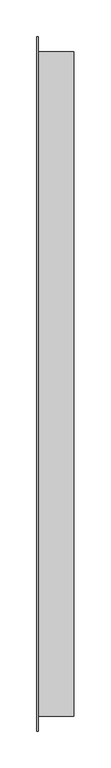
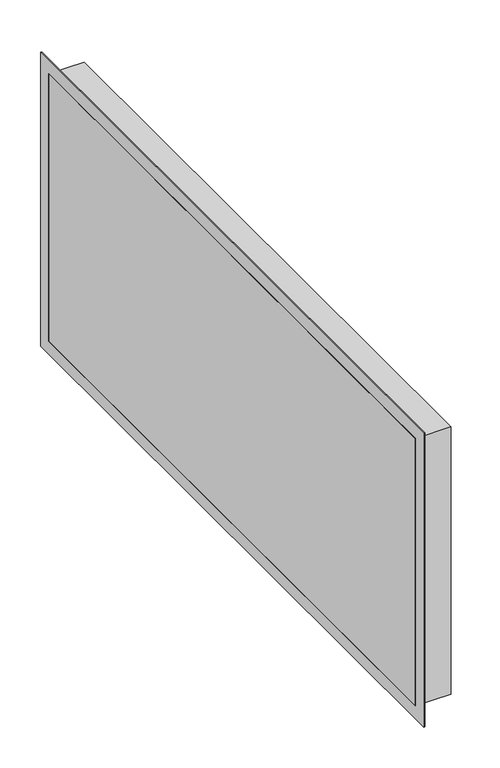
"""IFC4 building model written with IfcOpenShell, lengths in millimetres: duct fitting geometry, ADSK_ЗаглушкаВоздуховода_Прямоугольный : Стандартное."""

import ifcopenshell
import ifcopenshell.guid

model = None  # the IFC model being written
_history = None  # IfcOwnerHistory: only IFC2X3 demands one
_inside = {}  # id of a spatial element -> (the spatial element, [elements in it])
_under = {}  # id of a project, library or spatial element -> (it, [spatial elements below it])
_declared = {}  # id of a project -> (the project, [libraries it declares])
_typed = {}  # id of a type object -> (the type object, [elements of that type])
_made_of = {}  # id of a material, layer set ... -> (it, [elements and type objects made of it])


def new_model(schema):
    """Start an empty IFC model of exactly this schema.

    Asked for "IFC4X3", IfcOpenShell would pick the latest addendum, in which some entities
    have other attributes; the version numbers below select the first issue.
    IFC2X3 requires an IfcOwnerHistory on every rooted entity: one is made here for all.
    """
    global model, _history
    if schema == "IFC4X3":
        model = ifcopenshell.file(schema_version=(4, 3, 0, 0))
    else:
        model = ifcopenshell.file(schema=schema)
    _inside.clear()
    _under.clear()
    _declared.clear()
    _typed.clear()
    _made_of.clear()
    _history = None
    if model.schema == "IFC2X3":
        org = make("IfcOrganization", Name="unknown")
        user = make(
            "IfcPersonAndOrganization",
            ThePerson=make("IfcPerson", FamilyName="unknown"),
            TheOrganization=org,
        )
        app = make(
            "IfcApplication",
            ApplicationDeveloper=org,
            Version="unknown",
            ApplicationFullName="unknown",
            ApplicationIdentifier="unknown",
        )
        _history = make(
            "IfcOwnerHistory",
            OwningUser=user,
            OwningApplication=app,
            ChangeAction="ADDED",
            CreationDate=0,
        )
    return model


def make(cls, **values):
    """One entity of the class cls with the attributes given. An attribute that is None is left unset."""
    return model.create_entity(
        cls, **{name: value for name, value in values.items() if value is not None}
    )


def rooted(cls, **values):
    """An entity with a GlobalId (a new one), such as an element, a storey or a relation."""
    return make(cls, GlobalId=ifcopenshell.guid.new(), OwnerHistory=_history, **values)


def si_unit(unit_type, name, prefix=None):
    """IfcSIUnit, for example si_unit("LENGTHUNIT", "METRE", prefix="MILLI")."""
    return make("IfcSIUnit", UnitType=unit_type, Prefix=prefix, Name=name)


def assignment(units):
    """IfcUnitAssignment: the units of a project."""
    return None if units is None else make("IfcUnitAssignment", Units=units)


def point(xyz):
    """IfcCartesianPoint."""
    return None if xyz is None else make("IfcCartesianPoint", Coordinates=xyz)


def direction(xyz):
    """IfcDirection."""
    return None if xyz is None else make("IfcDirection", DirectionRatios=xyz)


def frame(location, z_axis=None, x_axis=None):
    """IfcAxis2Placement3D, a coordinate frame: its origin and axes. An axis left out is left unset."""
    return make(
        "IfcAxis2Placement3D",
        Location=point(location),
        Axis=direction(z_axis),
        RefDirection=direction(x_axis),
    )


def origin():
    """The frame at (0, 0, 0) with its axes left unset."""
    return frame((0.0, 0.0, 0.0))


def place(relative_to, where):
    """IfcLocalPlacement: puts the frame where relative to a parent placement (None: the world)."""
    return make(
        "IfcLocalPlacement", PlacementRelTo=relative_to, RelativePlacement=where
    )


def context(
    kind, dimensions, precision=None, world=None, true_north=None, identifier=None
):
    """IfcGeometricRepresentationContext, for example the 3D "Model" context."""
    return make(
        "IfcGeometricRepresentationContext",
        ContextIdentifier=identifier,
        ContextType=kind,
        CoordinateSpaceDimension=dimensions,
        Precision=precision,
        WorldCoordinateSystem=world,
        TrueNorth=true_north,
    )


def project(units=None, contexts=None):
    """IfcProject with its units and contexts."""
    return rooted(
        "IfcProject",
        Name="project",
        RepresentationContexts=contexts,
        UnitsInContext=assignment(units),
    )


def spatial(cls, under=None, at=None, **own):
    """A site, building, storey or space (cls), placed at a placement, below another one or the project."""
    s = rooted(cls, ObjectPlacement=at, **own)
    if under is not None:
        _under.setdefault(under.id(), (under, []))[1].append(s)
    return s


def polyline(points):
    """IfcPolyline through the points."""
    return make("IfcPolyline", Points=[point(p) for p in points])


def outline(outer, holes=None, kind="AREA"):
    """IfcArbitraryClosedProfileDef: a profile drawn as a closed curve; with holes, ...WithVoids."""
    if holes is None:
        return make("IfcArbitraryClosedProfileDef", ProfileType=kind, OuterCurve=outer)
    return make(
        "IfcArbitraryProfileDefWithVoids",
        ProfileType=kind,
        OuterCurve=outer,
        InnerCurves=holes,
    )


def extrude(swept, where, along, depth):
    """IfcExtrudedAreaSolid: the profile swept, set in the frame where, extruded along a direction by depth."""
    return make(
        "IfcExtrudedAreaSolid",
        SweptArea=swept,
        Position=where,
        ExtrudedDirection=direction(along),
        Depth=depth,
    )


def shape(context_of_items, identifier, shape_type, items):
    """IfcShapeRepresentation: the items that make up one representation, for example the "Body"."""
    return make(
        "IfcShapeRepresentation",
        ContextOfItems=context_of_items,
        RepresentationIdentifier=identifier,
        RepresentationType=shape_type,
        Items=items,
    )


def source(mapping_origin, context_of_items, identifier, shape_type, items):
    """IfcRepresentationMap: a shape defined once, which mapped items show again and again."""
    return make(
        "IfcRepresentationMap",
        MappingOrigin=mapping_origin,
        MappedRepresentation=shape(context_of_items, identifier, shape_type, items),
    )


def transform(
    local_origin,
    x_axis=None,
    y_axis=None,
    z_axis=None,
    scale=None,
    scale2=None,
    scale3=None,
    uniform=True,
):
    """IfcCartesianTransformationOperator3D, or its non-uniform kind. x_axis, y_axis, z_axis: its Axis1, 2, 3."""
    if uniform:
        return make(
            "IfcCartesianTransformationOperator3D",
            Axis1=direction(x_axis),
            Axis2=direction(y_axis),
            LocalOrigin=point(local_origin),
            Scale=scale,
            Axis3=direction(z_axis),
        )
    return make(
        "IfcCartesianTransformationOperator3DnonUniform",
        Axis1=direction(x_axis),
        Axis2=direction(y_axis),
        LocalOrigin=point(local_origin),
        Scale=scale,
        Axis3=direction(z_axis),
        Scale2=scale2,
        Scale3=scale3,
    )


def mapped(mapping_source, mapping_target):
    """IfcMappedItem: shows the shape of a source again, moved by a transform."""
    return make(
        "IfcMappedItem", MappingSource=mapping_source, MappingTarget=mapping_target
    )


def made_of(thing, what):
    """Note that an element or type object is made of a material, layer set ...; save() writes the relation."""
    if what is not None:
        _made_of.setdefault(what.id(), (what, []))[1].append(thing)
    return thing


def element(
    cls,
    number,
    at=None,
    inside=None,
    cuts=None,
    type_object=None,
    material=None,
    context=None,
    identifier="Body",
    shape_type=None,
    held_by="IfcProductDefinitionShape",
    body=None,
    shapes=None,
    **own,
):
    """One element of the class cls, such as IfcWall. Its Tag is "e" and its number.

    at: its placement. inside: the storey or other place that contains it. cuts: it is an
    opening in that element (IfcRelVoidsElement). A single representation is given by context,
    identifier, shape_type and body (its items); several are given by shapes. held_by: the class
    of the entity that holds the representations. save() writes the other relations.
    """
    e = rooted(cls, Tag="e%d" % number, ObjectPlacement=at, **own)
    if body is not None:
        shapes = [shape(context, identifier, shape_type, body)]
    if shapes is not None:
        e.Representation = make(held_by, Representations=shapes)
    if inside is not None:
        _inside.setdefault(inside.id(), (inside, []))[1].append(e)
    if cuts is not None:
        rooted(
            "IfcRelVoidsElement", RelatingBuildingElement=cuts, RelatedOpeningElement=e
        )
    if type_object is not None:
        _typed.setdefault(type_object.id(), (type_object, []))[1].append(e)
    return made_of(e, material)


def aggregate(whole, parts):
    """IfcRelAggregates: a whole, such as a stair, and the parts it consists of."""
    return rooted("IfcRelAggregates", RelatingObject=whole, RelatedObjects=parts)


def save(model, path):
    """Write the relations noted so far, then the file.

    IfcRelAggregates (storeys below a building ...), IfcRelContainedInSpatialStructure (elements
    in a storey), IfcRelDefinesByType, IfcRelAssociatesMaterial and IfcRelDeclares: one each for
    every whole, place, type object, material and project.
    """
    for whole, parts in _under.values():
        aggregate(whole, parts)
    for where, things in _inside.values():
        rooted(
            "IfcRelContainedInSpatialStructure",
            RelatedElements=things,
            RelatingStructure=where,
        )
    for kind, things in _typed.values():
        rooted("IfcRelDefinesByType", RelatedObjects=things, RelatingType=kind)
    for what, things in _made_of.values():
        rooted("IfcRelAssociatesMaterial", RelatedObjects=things, RelatingMaterial=what)
    for by, libraries in _declared.values():
        rooted("IfcRelDeclares", RelatingContext=by, RelatedDefinitions=libraries)
    model.write(path)


def duct_fitting_8b7c782a(model_context):
    return source(origin(), model_context, "Body", "SweptSolid", [
        extrude(outline(polyline([(0.0, 450.0), (50.0, 450.0), (50.0, -450.0), (0.0, -450.0), (0.0, 450.0)])), frame((0.0, 0.0, -200.0), z_axis=(0.0, 0.0, 1.0), x_axis=(1.0, 0.0, 0.0)), (0.0, 0.0, 1.0), 400.0),
        extrude(outline(polyline([(470.0, 220.0), (470.0, -220.0), (-470.0, -220.0), (-470.0, 220.0), (470.0, 220.0)]), holes=[polyline([(450.0, 200.0), (-450.0, 200.0), (-450.0, -200.0), (450.0, -200.0), (450.0, 200.0)])]), frame((0.0, 0.0, 0.0), z_axis=(1.0, 0.0, 0.0), x_axis=(0.0, 1.0, 0.0)), (0.0, 0.0, 1.0), 2.0),
    ])


if __name__ == "__main__":
    model = new_model("IFC4")
    model_context = context("Model", 3, world=origin())
    ifc_project = project(units=[si_unit("LENGTHUNIT", "METRE", prefix="MILLI")], contexts=[model_context])
    site = spatial("IfcSite", under=ifc_project)
    building = spatial("IfcBuilding", under=site)
    placement = place(None, origin())
    duct_fitting_shape = duct_fitting_8b7c782a(model_context)
    element("IfcDuctFitting", 1, ObjectType="ADSK_ЗаглушкаВоздуховода_Прямоугольный : Стандартное", at=placement, inside=building, context=model_context, shape_type="MappedRepresentation", body=[
        mapped(duct_fitting_shape, transform((0.0, 0.0, 0.0), x_axis=(1.0, 0.0, 0.0), y_axis=(0.0, 1.0, 0.0), z_axis=(0.0, 0.0, 1.0))),
    ])
    save(model, "model.ifc")
